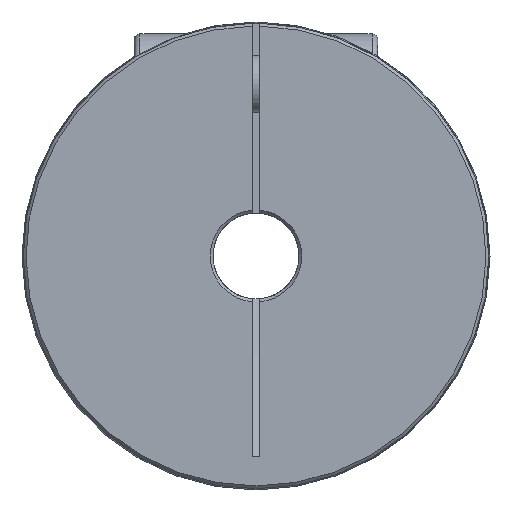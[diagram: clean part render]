
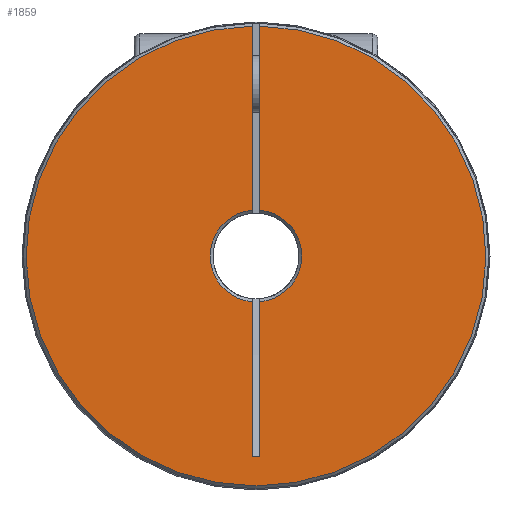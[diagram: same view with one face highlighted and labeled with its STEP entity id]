
A CAD part, left-side view. The second image highlights one B-rep face of the part: STEP entity #1859.
In plain terms, the highlighted planar face has unit normal (-1, 0, 0).
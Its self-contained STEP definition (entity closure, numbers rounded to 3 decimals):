
#126=LINE('',#3005,#212);
#127=LINE('',#3013,#213);
#130=LINE('',#3029,#216);
#133=LINE('',#3040,#219);
#135=LINE('',#3056,#221);
#212=VECTOR('',#2323,1000.);
#213=VECTOR('',#2326,1000.);
#216=VECTOR('',#2335,1000.);
#219=VECTOR('',#2340,1000.);
#221=VECTOR('',#2346,1000.);
#389=ORIENTED_EDGE('',*,*,#837,.T.);
#390=ORIENTED_EDGE('',*,*,#796,.F.);
#391=ORIENTED_EDGE('',*,*,#801,.F.);
#392=ORIENTED_EDGE('',*,*,#786,.T.);
#393=ORIENTED_EDGE('',*,*,#838,.T.);
#394=ORIENTED_EDGE('',*,*,#784,.T.);
#395=ORIENTED_EDGE('',*,*,#839,.F.);
#396=ORIENTED_EDGE('',*,*,#792,.F.);
#784=EDGE_CURVE('',#1010,#1014,#126,.T.);
#786=EDGE_CURVE('',#1017,#1015,#127,.T.);
#792=EDGE_CURVE('',#1022,#1023,#130,.T.);
#796=EDGE_CURVE('',#1026,#1027,#133,.T.);
#801=EDGE_CURVE('',#1017,#1026,#135,.T.);
#837=EDGE_CURVE('',#1022,#1027,#1189,.T.);
#838=EDGE_CURVE('',#1015,#1010,#1190,.T.);
#839=EDGE_CURVE('',#1023,#1014,#1191,.T.);
#1010=VERTEX_POINT('',#2993);
#1014=VERTEX_POINT('',#3004);
#1015=VERTEX_POINT('',#3011);
#1017=VERTEX_POINT('',#3014);
#1022=VERTEX_POINT('',#3028);
#1023=VERTEX_POINT('',#3030);
#1026=VERTEX_POINT('',#3041);
#1027=VERTEX_POINT('',#3042);
#1189=CIRCLE('',#2044,3.2);
#1190=CIRCLE('',#2045,3.2);
#1191=CIRCLE('',#2046,16.05);
#1322=EDGE_LOOP('',(#389,#390,#391,#392,#393,#394,#395,#396));
#1556=FACE_BOUND('',#1322,.T.);
#1771=PLANE('',#2043);
#1859=ADVANCED_FACE('',(#1556),#1771,.F.);
#2043=AXIS2_PLACEMENT_3D('',#3211,#2409,#2410);
#2044=AXIS2_PLACEMENT_3D('',#3212,#2411,#2412);
#2045=AXIS2_PLACEMENT_3D('',#3213,#2413,#2414);
#2046=AXIS2_PLACEMENT_3D('',#3214,#2415,#2416);
#2323=DIRECTION('',(0.,0.,1.));
#2326=DIRECTION('',(0.,0.,1.));
#2335=DIRECTION('',(0.,0.,1.));
#2340=DIRECTION('',(0.,0.,1.));
#2346=DIRECTION('',(0.,-1.,0.));
#2409=DIRECTION('',(1.,0.,0.));
#2410=DIRECTION('',(0.,0.,-1.));
#2411=DIRECTION('',(1.,0.,0.));
#2412=DIRECTION('',(0.,0.,-1.));
#2413=DIRECTION('',(1.,0.,0.));
#2414=DIRECTION('',(0.,0.,-1.));
#2415=DIRECTION('',(1.,0.,0.));
#2416=DIRECTION('',(0.,0.,-1.));
#2993=CARTESIAN_POINT('',(0.,0.25,3.19));
#3004=CARTESIAN_POINT('',(0.,0.25,16.048));
#3005=CARTESIAN_POINT('',(0.,0.25,-13.976));
#3011=CARTESIAN_POINT('',(0.,0.25,-3.19));
#3013=CARTESIAN_POINT('',(0.,0.25,-13.976));
#3014=CARTESIAN_POINT('',(0.,0.25,-13.976));
#3028=CARTESIAN_POINT('',(0.,-0.25,3.19));
#3029=CARTESIAN_POINT('',(0.,-0.25,-13.976));
#3030=CARTESIAN_POINT('',(0.,-0.25,16.048));
#3040=CARTESIAN_POINT('',(0.,-0.25,-13.976));
#3041=CARTESIAN_POINT('',(0.,-0.25,-13.976));
#3042=CARTESIAN_POINT('',(0.,-0.25,-3.19));
#3056=CARTESIAN_POINT('',(0.,0.25,-13.976));
#3211=CARTESIAN_POINT('',(0.,0.,0.));
#3212=CARTESIAN_POINT('',(0.,0.,0.));
#3213=CARTESIAN_POINT('',(0.,0.,0.));
#3214=CARTESIAN_POINT('',(0.,0.,0.));
